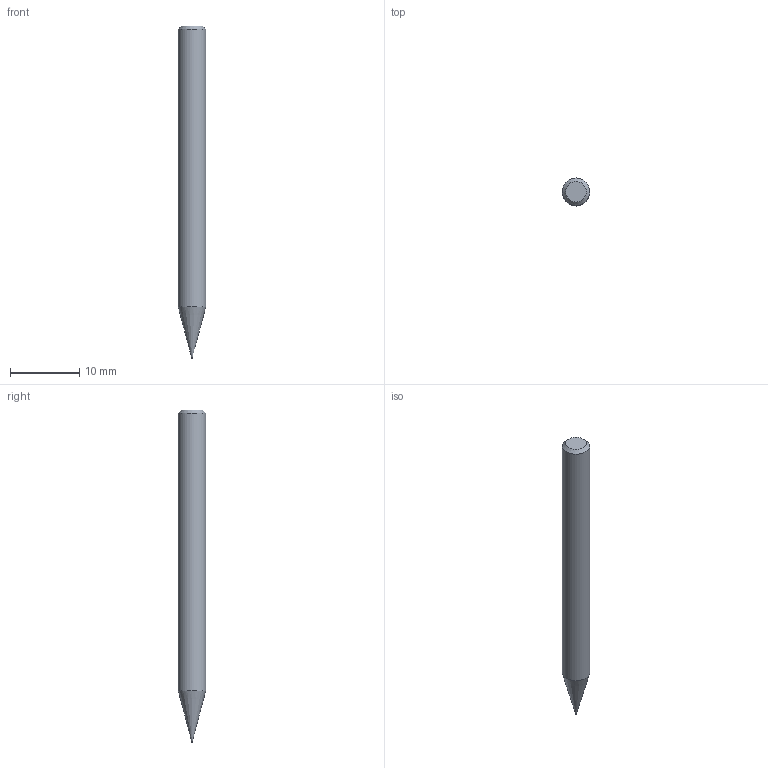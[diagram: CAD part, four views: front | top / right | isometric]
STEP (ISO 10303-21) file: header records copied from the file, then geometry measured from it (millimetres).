
FILE_DESCRIPTION((''),'2;1');
FILE_NAME('C:\Users\nsx150\AppData\Local\Temp\Mastercam 2021\LJSIDMOTM8\TEMP.step','2021-08-03T14:25:49',(''),(''),'STEP Write','Mastercam 2021 ... CNC Software, Inc.','');
FILE_SCHEMA(('AUTOMOTIVE_DESIGN'));
Length unit declared in the file: millimetre
Products named in the file (1): None
Bounding box: 4 x 4 x 48 mm (x, y, z)
Volume: 540.1 mm3; surface area: 567.4 mm2
Topology: 2 solids, 2 shells, 9 faces, 12 edges, 7 vertices
Faces by surface type: plane 4, cylinder 3, cone 2
Full cylindrical faces by diameter (mm): 0.09 x1, 0.1 x1, 4 x1
Entity records: 211 total; most frequent: DIRECTION 36, CARTESIAN_POINT 25, AXIS2_PLACEMENT_3D 18, ORIENTED_EDGE 14, EDGE_LOOP 14, STYLED_ITEM 12, ADVANCED_FACE 9, FACE_BOUND 8
